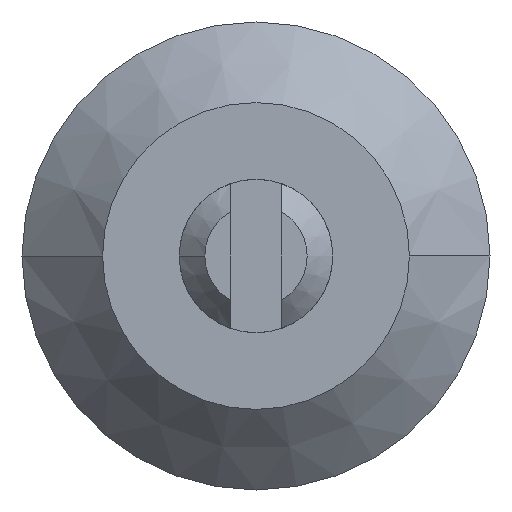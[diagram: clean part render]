
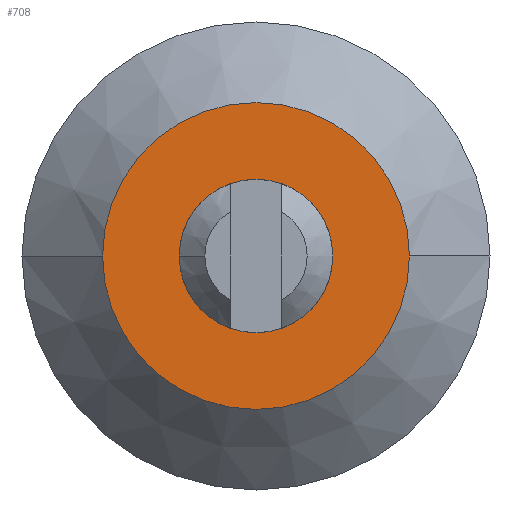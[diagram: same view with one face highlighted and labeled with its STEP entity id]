
A CAD part, left-side view. The second image highlights one B-rep face of the part: STEP entity #708.
In plain terms, the highlighted planar face has unit normal (-1, 0, 0).
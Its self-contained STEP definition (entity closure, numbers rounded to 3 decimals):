
#12 = AXIS2_PLACEMENT_3D ( 'NONE', #385, #509, #314 ) ;
#14 = DIRECTION ( 'NONE',  ( 1., 0., 0. ) ) ;
#33 = EDGE_LOOP ( 'NONE', ( #534, #87 ) ) ;
#57 = CARTESIAN_POINT ( 'NONE',  ( 4.5, 1.5, 0. ) ) ;
#87 = ORIENTED_EDGE ( 'NONE', *, *, #382, .F. ) ;
#138 = CARTESIAN_POINT ( 'NONE',  ( 4.5, 1.5, 0. ) ) ;
#148 = AXIS2_PLACEMENT_3D ( 'NONE', #138, #272, #396 ) ;
#151 = DIRECTION ( 'NONE',  ( 0., 1., 0. ) ) ;
#161 = DIRECTION ( 'NONE',  ( 1., 0., 0. ) ) ;
#182 = EDGE_CURVE ( 'NONE', #646, #224, #550, .T. ) ;
#184 = CARTESIAN_POINT ( 'NONE',  ( 4.5, -1.5, 0. ) ) ;
#191 = DIRECTION ( 'NONE',  ( 0., 1., 0. ) ) ;
#224 = VERTEX_POINT ( 'NONE', #57 ) ;
#248 = AXIS2_PLACEMENT_3D ( 'NONE', #673, #161, #151 ) ;
#269 = CARTESIAN_POINT ( 'NONE',  ( 4.5, 0., 0. ) ) ;
#272 = DIRECTION ( 'NONE',  ( -1., 0., 0. ) ) ;
#281 = PLANE ( 'NONE',  #148 ) ;
#286 = CARTESIAN_POINT ( 'NONE',  ( 4.5, 3., 0. ) ) ;
#299 = CIRCLE ( 'NONE', #248, 1.5 ) ;
#303 = ORIENTED_EDGE ( 'NONE', *, *, #813, .T. ) ;
#311 = AXIS2_PLACEMENT_3D ( 'NONE', #807, #371, #191 ) ;
#314 = DIRECTION ( 'NONE',  ( 0., 1., 0. ) ) ;
#332 = DIRECTION ( 'NONE',  ( 0., 1., 0. ) ) ;
#358 = ORIENTED_EDGE ( 'NONE', *, *, #182, .T. ) ;
#371 = DIRECTION ( 'NONE',  ( 1., 0., 0. ) ) ;
#382 = EDGE_CURVE ( 'NONE', #465, #538, #455, .T. ) ;
#385 = CARTESIAN_POINT ( 'NONE',  ( 4.5, 0., 0. ) ) ;
#396 = DIRECTION ( 'NONE',  ( 0., -1., 0. ) ) ;
#455 = CIRCLE ( 'NONE', #773, 3. ) ;
#465 = VERTEX_POINT ( 'NONE', #669 ) ;
#509 = DIRECTION ( 'NONE',  ( 1., 0., 0. ) ) ;
#534 = ORIENTED_EDGE ( 'NONE', *, *, #594, .F. ) ;
#538 = VERTEX_POINT ( 'NONE', #286 ) ;
#550 = CIRCLE ( 'NONE', #12, 1.5 ) ;
#588 = FACE_OUTER_BOUND ( 'NONE', #33, .T. ) ;
#594 = EDGE_CURVE ( 'NONE', #538, #465, #802, .T. ) ;
#646 = VERTEX_POINT ( 'NONE', #184 ) ;
#669 = CARTESIAN_POINT ( 'NONE',  ( 4.5, -3., 0. ) ) ;
#673 = CARTESIAN_POINT ( 'NONE',  ( 4.5, 0., 0. ) ) ;
#691 = EDGE_LOOP ( 'NONE', ( #303, #358 ) ) ;
#708 = ADVANCED_FACE ( 'NONE', ( #711, #588 ), #281, .T. ) ;
#711 = FACE_BOUND ( 'NONE', #691, .T. ) ;
#773 = AXIS2_PLACEMENT_3D ( 'NONE', #269, #14, #332 ) ;
#802 = CIRCLE ( 'NONE', #311, 3. ) ;
#807 = CARTESIAN_POINT ( 'NONE',  ( 4.5, 0., 0. ) ) ;
#813 = EDGE_CURVE ( 'NONE', #224, #646, #299, .T. ) ;
